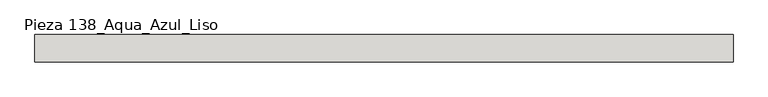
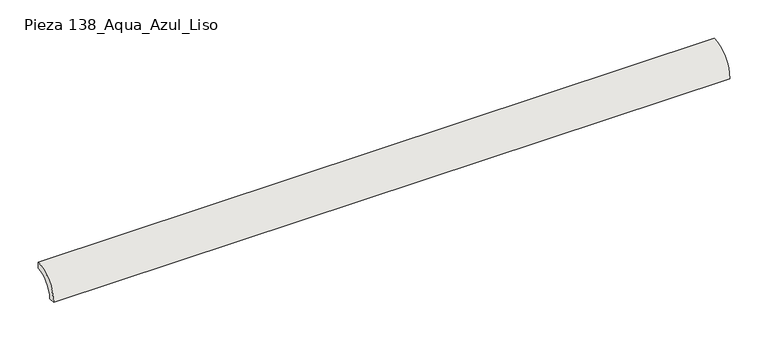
"""IFC4 building model written with IfcOpenShell, lengths in millimetres: slab geometry, ROSA GRES_138 : Pieza 138_Aqua_Azul_Liso."""

import ifcopenshell
import ifcopenshell.guid

model = None  # the IFC model being written
_history = None  # IfcOwnerHistory: only IFC2X3 demands one
_inside = {}  # id of a spatial element -> (the spatial element, [elements in it])
_under = {}  # id of a project, library or spatial element -> (it, [spatial elements below it])
_declared = {}  # id of a project -> (the project, [libraries it declares])
_typed = {}  # id of a type object -> (the type object, [elements of that type])
_made_of = {}  # id of a material, layer set ... -> (it, [elements and type objects made of it])


def new_model(schema):
    """Start an empty IFC model of exactly this schema.

    Asked for "IFC4X3", IfcOpenShell would pick the latest addendum, in which some entities
    have other attributes; the version numbers below select the first issue.
    IFC2X3 requires an IfcOwnerHistory on every rooted entity: one is made here for all.
    """
    global model, _history
    if schema == "IFC4X3":
        model = ifcopenshell.file(schema_version=(4, 3, 0, 0))
    else:
        model = ifcopenshell.file(schema=schema)
    _inside.clear()
    _under.clear()
    _declared.clear()
    _typed.clear()
    _made_of.clear()
    _history = None
    if model.schema == "IFC2X3":
        org = make("IfcOrganization", Name="unknown")
        user = make(
            "IfcPersonAndOrganization",
            ThePerson=make("IfcPerson", FamilyName="unknown"),
            TheOrganization=org,
        )
        app = make(
            "IfcApplication",
            ApplicationDeveloper=org,
            Version="unknown",
            ApplicationFullName="unknown",
            ApplicationIdentifier="unknown",
        )
        _history = make(
            "IfcOwnerHistory",
            OwningUser=user,
            OwningApplication=app,
            ChangeAction="ADDED",
            CreationDate=0,
        )
    return model


def make(cls, **values):
    """One entity of the class cls with the attributes given. An attribute that is None is left unset."""
    return model.create_entity(
        cls, **{name: value for name, value in values.items() if value is not None}
    )


def rooted(cls, **values):
    """An entity with a GlobalId (a new one), such as an element, a storey or a relation."""
    return make(cls, GlobalId=ifcopenshell.guid.new(), OwnerHistory=_history, **values)


def si_unit(unit_type, name, prefix=None):
    """IfcSIUnit, for example si_unit("LENGTHUNIT", "METRE", prefix="MILLI")."""
    return make("IfcSIUnit", UnitType=unit_type, Prefix=prefix, Name=name)


def assignment(units):
    """IfcUnitAssignment: the units of a project."""
    return None if units is None else make("IfcUnitAssignment", Units=units)


def point(xyz):
    """IfcCartesianPoint."""
    return None if xyz is None else make("IfcCartesianPoint", Coordinates=xyz)


def direction(xyz):
    """IfcDirection."""
    return None if xyz is None else make("IfcDirection", DirectionRatios=xyz)


def frame(location, z_axis=None, x_axis=None):
    """IfcAxis2Placement3D, a coordinate frame: its origin and axes. An axis left out is left unset."""
    return make(
        "IfcAxis2Placement3D",
        Location=point(location),
        Axis=direction(z_axis),
        RefDirection=direction(x_axis),
    )


def frame_2d(location, x_axis=None):
    """IfcAxis2Placement2D, a coordinate frame in the plane: its origin and x axis."""
    return make(
        "IfcAxis2Placement2D", Location=point(location), RefDirection=direction(x_axis)
    )


def origin():
    """The frame at (0, 0, 0) with its axes left unset."""
    return frame((0.0, 0.0, 0.0))


def origin_2d():
    """The frame at (0, 0) in the plane with its x axis left unset."""
    return frame_2d((0.0, 0.0))


def place(relative_to, where):
    """IfcLocalPlacement: puts the frame where relative to a parent placement (None: the world)."""
    return make(
        "IfcLocalPlacement", PlacementRelTo=relative_to, RelativePlacement=where
    )


def context(
    kind, dimensions, precision=None, world=None, true_north=None, identifier=None
):
    """IfcGeometricRepresentationContext, for example the 3D "Model" context."""
    return make(
        "IfcGeometricRepresentationContext",
        ContextIdentifier=identifier,
        ContextType=kind,
        CoordinateSpaceDimension=dimensions,
        Precision=precision,
        WorldCoordinateSystem=world,
        TrueNorth=true_north,
    )


def project(units=None, contexts=None):
    """IfcProject with its units and contexts."""
    return rooted(
        "IfcProject",
        Name="project",
        RepresentationContexts=contexts,
        UnitsInContext=assignment(units),
    )


def spatial(cls, under=None, at=None, **own):
    """A site, building, storey or space (cls), placed at a placement, below another one or the project."""
    s = rooted(cls, ObjectPlacement=at, **own)
    if under is not None:
        _under.setdefault(under.id(), (under, []))[1].append(s)
    return s


def polyline(points):
    """IfcPolyline through the points."""
    return make("IfcPolyline", Points=[point(p) for p in points])


def circle_curve(where, radius):
    """IfcCircle in the frame where."""
    return make("IfcCircle", Position=where, Radius=radius)


def trimmed(basis, trim1, trim2, sense, master):
    """IfcTrimmedCurve: the piece of a basis curve between two trims."""
    return make(
        "IfcTrimmedCurve",
        BasisCurve=basis,
        Trim1=trim1,
        Trim2=trim2,
        SenseAgreement=sense,
        MasterRepresentation=master,
    )


def segment(curve, same_sense, transition):
    """IfcCompositeCurveSegment."""
    return make(
        "IfcCompositeCurveSegment",
        Transition=transition,
        SameSense=same_sense,
        ParentCurve=curve,
    )


def composite_curve(segments, self_intersect=None):
    """IfcCompositeCurve: segments joined end to end."""
    return make("IfcCompositeCurve", Segments=segments, SelfIntersect=self_intersect)


def outline(outer, holes=None, kind="AREA"):
    """IfcArbitraryClosedProfileDef: a profile drawn as a closed curve; with holes, ...WithVoids."""
    if holes is None:
        return make("IfcArbitraryClosedProfileDef", ProfileType=kind, OuterCurve=outer)
    return make(
        "IfcArbitraryProfileDefWithVoids",
        ProfileType=kind,
        OuterCurve=outer,
        InnerCurves=holes,
    )


def extrude(swept, where, along, depth):
    """IfcExtrudedAreaSolid: the profile swept, set in the frame where, extruded along a direction by depth."""
    return make(
        "IfcExtrudedAreaSolid",
        SweptArea=swept,
        Position=where,
        ExtrudedDirection=direction(along),
        Depth=depth,
    )


def shape(context_of_items, identifier, shape_type, items):
    """IfcShapeRepresentation: the items that make up one representation, for example the "Body"."""
    return make(
        "IfcShapeRepresentation",
        ContextOfItems=context_of_items,
        RepresentationIdentifier=identifier,
        RepresentationType=shape_type,
        Items=items,
    )


def source(mapping_origin, context_of_items, identifier, shape_type, items):
    """IfcRepresentationMap: a shape defined once, which mapped items show again and again."""
    return make(
        "IfcRepresentationMap",
        MappingOrigin=mapping_origin,
        MappedRepresentation=shape(context_of_items, identifier, shape_type, items),
    )


def transform(
    local_origin,
    x_axis=None,
    y_axis=None,
    z_axis=None,
    scale=None,
    scale2=None,
    scale3=None,
    uniform=True,
):
    """IfcCartesianTransformationOperator3D, or its non-uniform kind. x_axis, y_axis, z_axis: its Axis1, 2, 3."""
    if uniform:
        return make(
            "IfcCartesianTransformationOperator3D",
            Axis1=direction(x_axis),
            Axis2=direction(y_axis),
            LocalOrigin=point(local_origin),
            Scale=scale,
            Axis3=direction(z_axis),
        )
    return make(
        "IfcCartesianTransformationOperator3DnonUniform",
        Axis1=direction(x_axis),
        Axis2=direction(y_axis),
        LocalOrigin=point(local_origin),
        Scale=scale,
        Axis3=direction(z_axis),
        Scale2=scale2,
        Scale3=scale3,
    )


def mapped(mapping_source, mapping_target):
    """IfcMappedItem: shows the shape of a source again, moved by a transform."""
    return make(
        "IfcMappedItem", MappingSource=mapping_source, MappingTarget=mapping_target
    )


def made_of(thing, what):
    """Note that an element or type object is made of a material, layer set ...; save() writes the relation."""
    if what is not None:
        _made_of.setdefault(what.id(), (what, []))[1].append(thing)
    return thing


def element(
    cls,
    number,
    at=None,
    inside=None,
    cuts=None,
    type_object=None,
    material=None,
    context=None,
    identifier="Body",
    shape_type=None,
    held_by="IfcProductDefinitionShape",
    body=None,
    shapes=None,
    **own,
):
    """One element of the class cls, such as IfcWall. Its Tag is "e" and its number.

    at: its placement. inside: the storey or other place that contains it. cuts: it is an
    opening in that element (IfcRelVoidsElement). A single representation is given by context,
    identifier, shape_type and body (its items); several are given by shapes. held_by: the class
    of the entity that holds the representations. save() writes the other relations.
    """
    e = rooted(cls, Tag="e%d" % number, ObjectPlacement=at, **own)
    if body is not None:
        shapes = [shape(context, identifier, shape_type, body)]
    if shapes is not None:
        e.Representation = make(held_by, Representations=shapes)
    if inside is not None:
        _inside.setdefault(inside.id(), (inside, []))[1].append(e)
    if cuts is not None:
        rooted(
            "IfcRelVoidsElement", RelatingBuildingElement=cuts, RelatedOpeningElement=e
        )
    if type_object is not None:
        _typed.setdefault(type_object.id(), (type_object, []))[1].append(e)
    return made_of(e, material)


def aggregate(whole, parts):
    """IfcRelAggregates: a whole, such as a stair, and the parts it consists of."""
    return rooted("IfcRelAggregates", RelatingObject=whole, RelatedObjects=parts)


def save(model, path):
    """Write the relations noted so far, then the file.

    IfcRelAggregates (storeys below a building ...), IfcRelContainedInSpatialStructure (elements
    in a storey), IfcRelDefinesByType, IfcRelAssociatesMaterial and IfcRelDeclares: one each for
    every whole, place, type object, material and project.
    """
    for whole, parts in _under.values():
        aggregate(whole, parts)
    for where, things in _inside.values():
        rooted(
            "IfcRelContainedInSpatialStructure",
            RelatedElements=things,
            RelatingStructure=where,
        )
    for kind, things in _typed.values():
        rooted("IfcRelDefinesByType", RelatedObjects=things, RelatingType=kind)
    for what, things in _made_of.values():
        rooted("IfcRelAssociatesMaterial", RelatedObjects=things, RelatingMaterial=what)
    for by, libraries in _declared.values():
        rooted("IfcRelDeclares", RelatingContext=by, RelatedDefinitions=libraries)
    model.write(path)


def pieza_138_aqua_azul_liso_2fbbe676(model_context):
    return source(origin(), model_context, "Body", "SweptSolid", [
        extrude(outline(composite_curve([segment(polyline([(0.0, 40.0), (0.0, 30.0265886)]), True, "CONTINUOUS"), segment(trimmed(circle_curve(frame_2d((-0.0044453, 0.0044453)), 30.0221435), [point((0.0, 30.0265886))], [point((-30.0265886, 0.0))], True, "CARTESIAN"), True, "CONTINUOUS"), segment(polyline([(-30.0265886, 0.0), (-40.0, 0.0)]), True, "CONTINUOUS"), segment(trimmed(circle_curve(origin_2d(), 40.0), [point((-40.0, 0.0))], [point((0.0, 40.0))], False, "CARTESIAN"), True, "CONTINUOUS")], self_intersect=False)), frame((0.0, 0.0, 0.0), z_axis=(1.0, 0.0, 0.0), x_axis=(0.0, 1.0, 0.0)), (0.0, 0.0, 1.0), 1020.0000124),
    ])


if __name__ == "__main__":
    model = new_model("IFC4")
    model_context = context("Model", 3, world=origin())
    ifc_project = project(units=[si_unit("LENGTHUNIT", "METRE", prefix="MILLI")], contexts=[model_context])
    site = spatial("IfcSite", under=ifc_project)
    building = spatial("IfcBuilding", under=site)
    placement = place(None, origin())
    pieza_138_aqua_azul_liso_shape = pieza_138_aqua_azul_liso_2fbbe676(model_context)
    element("IfcSlab", 1, ObjectType="ROSA GRES_138 : Pieza 138_Aqua_Azul_Liso", at=placement, inside=building, context=model_context, shape_type="MappedRepresentation", body=[
        mapped(pieza_138_aqua_azul_liso_shape, transform((0.0, 0.0, 0.0), x_axis=(1.0, 0.0, 0.0), y_axis=(0.0, 1.0, 0.0), z_axis=(0.0, 0.0, 1.0))),
    ])
    save(model, "model.ifc")
